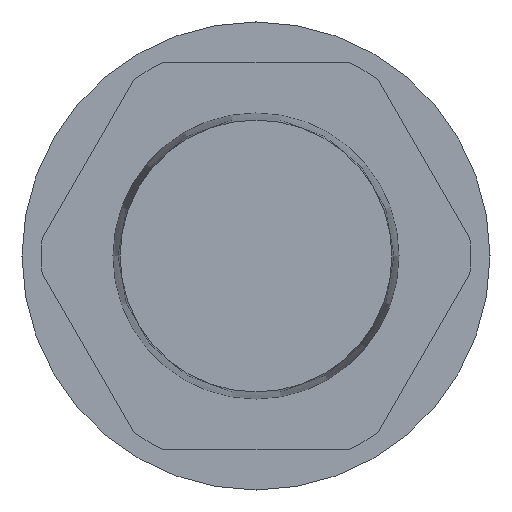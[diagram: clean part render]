
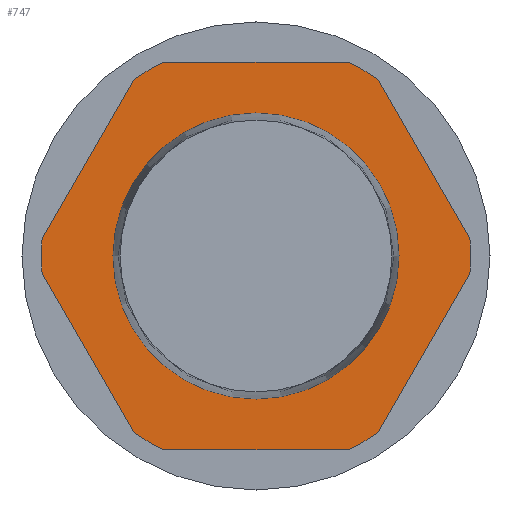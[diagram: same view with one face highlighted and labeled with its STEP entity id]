
A CAD part, left-side view. The second image highlights one B-rep face of the part: STEP entity #747.
In plain terms, the highlighted planar face has unit normal (-1, 0, 0).
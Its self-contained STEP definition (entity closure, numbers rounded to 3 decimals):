
#121=CARTESIAN_POINT('',(-23.24,10.7,0.));
#122=VERTEX_POINT('',#121);
#123=CARTESIAN_POINT('',(-23.24,0.0,0.0));
#124=DIRECTION('',(1.0,0.0,0.0));
#125=DIRECTION('',(0.0,-1.0,0.0));
#126=AXIS2_PLACEMENT_3D('',#123,#124,#125);
#127=CIRCLE('',#126,10.7);
#128=EDGE_CURVE('',#122,#122,#127,.T.);
#460=CARTESIAN_POINT('',(-23.24,15.998,1.291));
#461=VERTEX_POINT('',#460);
#469=CARTESIAN_POINT('',(-23.24,15.998,-1.291));
#470=VERTEX_POINT('',#469);
#477=CARTESIAN_POINT('',(-23.24,0.0,0.0));
#478=DIRECTION('',(1.0,0.0,0.0));
#479=DIRECTION('',(0.0,-1.0,0.0));
#480=AXIS2_PLACEMENT_3D('',#477,#478,#479);
#481=CIRCLE('',#480,16.05);
#482=EDGE_CURVE('',#470,#461,#481,.T.);
#492=CARTESIAN_POINT('',(-23.24,6.881,-14.5));
#493=VERTEX_POINT('',#492);
#500=CARTESIAN_POINT('',(-23.24,9.117,-13.209));
#501=VERTEX_POINT('',#500);
#502=CARTESIAN_POINT('',(-23.24,0.0,0.0));
#503=DIRECTION('',(1.0,0.0,0.0));
#504=DIRECTION('',(0.0,-1.0,0.0));
#505=AXIS2_PLACEMENT_3D('',#502,#503,#504);
#506=CIRCLE('',#505,16.05);
#507=EDGE_CURVE('',#493,#501,#506,.T.);
#524=CARTESIAN_POINT('',(-23.24,6.881,14.5));
#525=VERTEX_POINT('',#524);
#533=CARTESIAN_POINT('',(-23.24,9.117,13.209));
#534=VERTEX_POINT('',#533);
#541=CARTESIAN_POINT('',(-23.24,0.0,0.0));
#542=DIRECTION('',(1.0,0.0,0.0));
#543=DIRECTION('',(0.0,-1.0,0.0));
#544=AXIS2_PLACEMENT_3D('',#541,#542,#543);
#545=CIRCLE('',#544,16.05);
#546=EDGE_CURVE('',#534,#525,#545,.T.);
#556=CARTESIAN_POINT('',(-23.24,-9.117,-13.209));
#557=VERTEX_POINT('',#556);
#564=CARTESIAN_POINT('',(-23.24,-6.881,-14.5));
#565=VERTEX_POINT('',#564);
#566=CARTESIAN_POINT('',(-23.24,0.0,0.0));
#567=DIRECTION('',(1.0,0.0,0.0));
#568=DIRECTION('',(0.0,-1.0,0.0));
#569=AXIS2_PLACEMENT_3D('',#566,#567,#568);
#570=CIRCLE('',#569,16.05);
#571=EDGE_CURVE('',#557,#565,#570,.T.);
#588=CARTESIAN_POINT('',(-23.24,-9.117,13.209));
#589=VERTEX_POINT('',#588);
#597=CARTESIAN_POINT('',(-23.24,-6.881,14.5));
#598=VERTEX_POINT('',#597);
#605=CARTESIAN_POINT('',(-23.24,0.0,0.0));
#606=DIRECTION('',(1.0,0.0,0.0));
#607=DIRECTION('',(0.0,-1.0,0.0));
#608=AXIS2_PLACEMENT_3D('',#605,#606,#607);
#609=CIRCLE('',#608,16.05);
#610=EDGE_CURVE('',#598,#589,#609,.T.);
#620=CARTESIAN_POINT('',(-23.24,-15.998,1.291));
#621=VERTEX_POINT('',#620);
#628=CARTESIAN_POINT('',(-23.24,-15.998,-1.291));
#629=VERTEX_POINT('',#628);
#630=CARTESIAN_POINT('',(-23.24,0.0,0.0));
#631=DIRECTION('',(1.0,0.0,0.0));
#632=DIRECTION('',(0.0,-1.0,0.0));
#633=AXIS2_PLACEMENT_3D('',#630,#631,#632);
#634=CIRCLE('',#633,16.05);
#635=EDGE_CURVE('',#621,#629,#634,.T.);
#653=CARTESIAN_POINT('',(-23.24,-15.998,-1.291));
#654=DIRECTION('',(0.0,0.5,-0.866));
#655=VECTOR('',#654,13.763);
#656=LINE('',#653,#655);
#657=EDGE_CURVE('',#629,#557,#656,.T.);
#672=CARTESIAN_POINT('',(-23.24,6.881,14.5));
#673=DIRECTION('',(0.0,-1.0,0.0));
#674=VECTOR('',#673,13.763);
#675=LINE('',#672,#674);
#676=EDGE_CURVE('',#525,#598,#675,.T.);
#687=CARTESIAN_POINT('',(-23.24,-6.881,-14.5));
#688=DIRECTION('',(0.0,1.0,0.0));
#689=VECTOR('',#688,13.763);
#690=LINE('',#687,#689);
#691=EDGE_CURVE('',#565,#493,#690,.T.);
#706=CARTESIAN_POINT('',(-23.24,15.998,1.291));
#707=DIRECTION('',(0.0,-0.5,0.866));
#708=VECTOR('',#707,13.763);
#709=LINE('',#706,#708);
#710=EDGE_CURVE('',#461,#534,#709,.T.);
#715=CARTESIAN_POINT('',(-23.24,0.,0.));
#716=DIRECTION('',(1.0,0.0,0.0));
#717=DIRECTION('',(0.0,0.0,-1.0));
#718=AXIS2_PLACEMENT_3D('',#715,#716,#717);
#719=PLANE('',#718);
#720=ORIENTED_EDGE('',*,*,#610,.F.);
#721=ORIENTED_EDGE('',*,*,#676,.F.);
#722=ORIENTED_EDGE('',*,*,#546,.F.);
#723=ORIENTED_EDGE('',*,*,#710,.F.);
#724=ORIENTED_EDGE('',*,*,#482,.F.);
#725=CARTESIAN_POINT('',(-23.24,9.117,-13.209));
#726=DIRECTION('',(0.0,0.5,0.866));
#727=VECTOR('',#726,13.763);
#728=LINE('',#725,#727);
#729=EDGE_CURVE('',#501,#470,#728,.T.);
#730=ORIENTED_EDGE('',*,*,#729,.F.);
#731=ORIENTED_EDGE('',*,*,#507,.F.);
#732=ORIENTED_EDGE('',*,*,#691,.F.);
#733=ORIENTED_EDGE('',*,*,#571,.F.);
#734=ORIENTED_EDGE('',*,*,#657,.F.);
#735=ORIENTED_EDGE('',*,*,#635,.F.);
#736=CARTESIAN_POINT('',(-23.24,-9.117,13.209));
#737=DIRECTION('',(0.0,-0.5,-0.866));
#738=VECTOR('',#737,13.763);
#739=LINE('',#736,#738);
#740=EDGE_CURVE('',#589,#621,#739,.T.);
#741=ORIENTED_EDGE('',*,*,#740,.F.);
#742=EDGE_LOOP('',(#720,#721,#722,#723,#724,#730,#731,#732,#733,#734,#735,#741));
#743=FACE_OUTER_BOUND('',#742,.T.);
#744=ORIENTED_EDGE('',*,*,#128,.T.);
#745=EDGE_LOOP('',(#744));
#746=FACE_BOUND('',#745,.T.);
#747=ADVANCED_FACE('',(#743,#746),#719,.F.);
